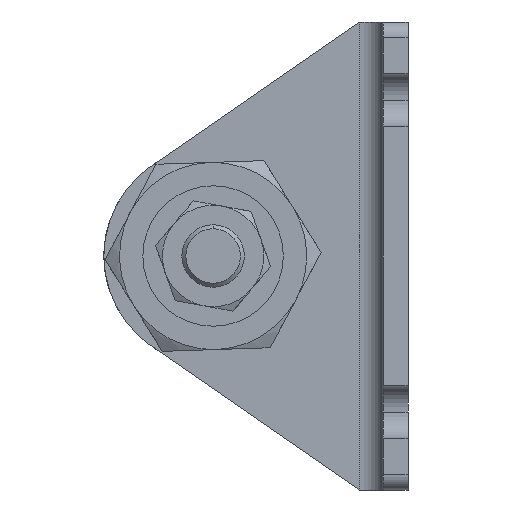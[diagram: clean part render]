
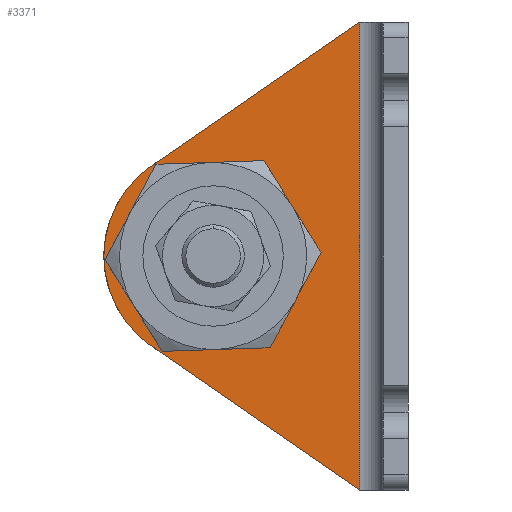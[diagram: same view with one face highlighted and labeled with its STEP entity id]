
A CAD part, left-side view. The second image highlights one B-rep face of the part: STEP entity #3371.
In plain terms, the highlighted planar face has unit normal (-1, 0, 0) as drawn and (1, 0, 0) by its records, which use the part's own axes.
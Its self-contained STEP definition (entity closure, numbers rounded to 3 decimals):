
#2 = CARTESIAN_POINT ( 'NONE',  ( 3.2, 6.2, -60. ) ) ;
#15 = CARTESIAN_POINT ( 'NONE',  ( 3.2, 32.956, -18.481 ) ) ;
#17 = CARTESIAN_POINT ( 'NONE',  ( 3.2, 15.5, -30. ) ) ;
#145 = ORIENTED_EDGE ( 'NONE', *, *, #3858, .F. ) ;
#307 = CIRCLE ( 'NONE', #3069, 14. ) ;
#360 = EDGE_CURVE ( 'NONE', #1550, #2356, #2967, .T. ) ;
#389 = EDGE_LOOP ( 'NONE', ( #1750, #1943, #3591, #145, #2717 ) ) ;
#464 = DIRECTION ( 'NONE',  ( 0., 1., 0. ) ) ;
#466 = CARTESIAN_POINT ( 'NONE',  ( 3.2, 34.5, -30. ) ) ;
#518 = ORIENTED_EDGE ( 'NONE', *, *, #1688, .F. ) ;
#537 = CIRCLE ( 'NONE', #1827, 14. ) ;
#541 = DIRECTION ( 'NONE',  ( 1., 0., 0. ) ) ;
#614 = CIRCLE ( 'NONE', #3031, 9.5 ) ;
#688 = AXIS2_PLACEMENT_3D ( 'NONE', #750, #2383, #464 ) ;
#726 = VERTEX_POINT ( 'NONE', #3819 ) ;
#750 = CARTESIAN_POINT ( 'NONE',  ( 3.2, 25., -30. ) ) ;
#790 = DIRECTION ( 'NONE',  ( 0., 0.823, -0.568 ) ) ;
#817 = CARTESIAN_POINT ( 'NONE',  ( 3.2, 39., -30. ) ) ;
#904 = CARTESIAN_POINT ( 'NONE',  ( 3.2, 6.2, -60. ) ) ;
#955 = VECTOR ( 'NONE', #1983, 1000. ) ;
#958 = ORIENTED_EDGE ( 'NONE', *, *, #3272, .F. ) ;
#984 = LINE ( 'NONE', #2085, #2368 ) ;
#1249 = FACE_OUTER_BOUND ( 'NONE', #389, .T. ) ;
#1314 = DIRECTION ( 'NONE',  ( 1., 0., 0. ) ) ;
#1463 = LINE ( 'NONE', #3862, #2219 ) ;
#1523 = FACE_BOUND ( 'NONE', #1810, .T. ) ;
#1550 = VERTEX_POINT ( 'NONE', #2103 ) ;
#1655 = DIRECTION ( 'NONE',  ( 0., 1., 0. ) ) ;
#1688 = EDGE_CURVE ( 'NONE', #3175, #3146, #2452, .T. ) ;
#1750 = ORIENTED_EDGE ( 'NONE', *, *, #3761, .T. ) ;
#1766 = CARTESIAN_POINT ( 'NONE',  ( 3.2, 25., -30. ) ) ;
#1810 = EDGE_LOOP ( 'NONE', ( #958, #518 ) ) ;
#1827 = AXIS2_PLACEMENT_3D ( 'NONE', #1766, #541, #2669 ) ;
#1875 = CARTESIAN_POINT ( 'NONE',  ( 3.2, 25., -30. ) ) ;
#1890 = VERTEX_POINT ( 'NONE', #15 ) ;
#1943 = ORIENTED_EDGE ( 'NONE', *, *, #3143, .T. ) ;
#1944 = AXIS2_PLACEMENT_3D ( 'NONE', #3781, #1314, #1655 ) ;
#1983 = DIRECTION ( 'NONE',  ( 0., 0., -1. ) ) ;
#2002 = DIRECTION ( 'NONE',  ( 0., 0.823, 0.568 ) ) ;
#2004 = DIRECTION ( 'NONE',  ( 1., 0., 0. ) ) ;
#2085 = CARTESIAN_POINT ( 'NONE',  ( 3.2, 32.226, -17.976 ) ) ;
#2103 = CARTESIAN_POINT ( 'NONE',  ( 3.2, 6.2, 0. ) ) ;
#2219 = VECTOR ( 'NONE', #2002, 1000. ) ;
#2356 = VERTEX_POINT ( 'NONE', #2 ) ;
#2368 = VECTOR ( 'NONE', #790, 1000. ) ;
#2383 = DIRECTION ( 'NONE',  ( 1., 0., 0. ) ) ;
#2452 = CIRCLE ( 'NONE', #688, 9.5 ) ;
#2669 = DIRECTION ( 'NONE',  ( 0., 1., 0. ) ) ;
#2717 = ORIENTED_EDGE ( 'NONE', *, *, #360, .T. ) ;
#2896 = DIRECTION ( 'NONE',  ( 0., 1., 0. ) ) ;
#2967 = LINE ( 'NONE', #904, #955 ) ;
#3031 = AXIS2_PLACEMENT_3D ( 'NONE', #3627, #4126, #2896 ) ;
#3069 = AXIS2_PLACEMENT_3D ( 'NONE', #1875, #2004, #3723 ) ;
#3143 = EDGE_CURVE ( 'NONE', #726, #4265, #537, .T. ) ;
#3146 = VERTEX_POINT ( 'NONE', #466 ) ;
#3175 = VERTEX_POINT ( 'NONE', #17 ) ;
#3231 = PLANE ( 'NONE',  #1944 ) ;
#3272 = EDGE_CURVE ( 'NONE', #3146, #3175, #614, .T. ) ;
#3371 = ADVANCED_FACE ( 'NONE', ( #1523, #1249 ), #3231, .T. ) ;
#3591 = ORIENTED_EDGE ( 'NONE', *, *, #3601, .T. ) ;
#3601 = EDGE_CURVE ( 'NONE', #4265, #1890, #307, .T. ) ;
#3627 = CARTESIAN_POINT ( 'NONE',  ( 3.2, 25., -30. ) ) ;
#3723 = DIRECTION ( 'NONE',  ( 0., 1., 0. ) ) ;
#3761 = EDGE_CURVE ( 'NONE', #2356, #726, #1463, .T. ) ;
#3781 = CARTESIAN_POINT ( 'NONE',  ( 3.2, 3.2, -60. ) ) ;
#3819 = CARTESIAN_POINT ( 'NONE',  ( 3.2, 32.956, -41.519 ) ) ;
#3858 = EDGE_CURVE ( 'NONE', #1550, #1890, #984, .T. ) ;
#3862 = CARTESIAN_POINT ( 'NONE',  ( 3.2, 4.169, -61.403 ) ) ;
#4126 = DIRECTION ( 'NONE',  ( 1., 0., 0. ) ) ;
#4265 = VERTEX_POINT ( 'NONE', #817 ) ;
